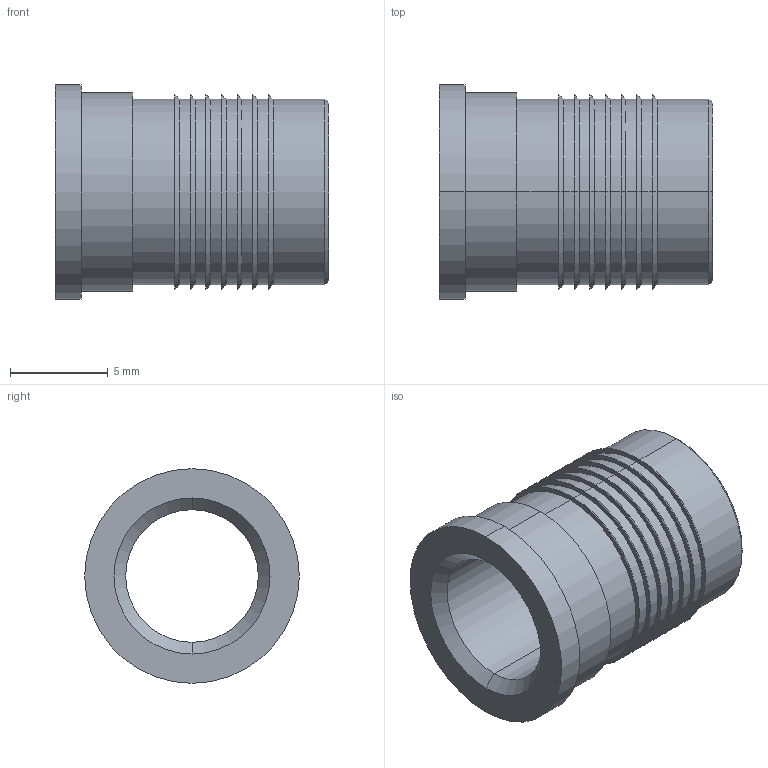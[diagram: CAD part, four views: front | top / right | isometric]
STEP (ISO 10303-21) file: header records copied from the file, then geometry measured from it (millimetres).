
FILE_DESCRIPTION (( 'STEP AP203' ), '1' );
FILE_NAME ('FSUK-PUH-M08-S.STEP', '2021-04-15T12:39:44', ( '' ), ( '' ), 'SwSTEP 2.0', 'SolidWorks 2021', '' );
FILE_SCHEMA (( 'CONFIG_CONTROL_DESIGN' ));
Length unit declared in the file: millimetre
Products named in the file (1): FSUK-PUH-M08-S
Bounding box: 14.02 x 11 x 11 mm (x, y, z)
Volume: 543.1 mm3; surface area: 907 mm2
Topology: 1 solids, 1 shells, 53 faces, 106 edges, 64 vertices
Faces by surface type: cylinder 22, cone 20, plane 11
Entity records: 1465 total; most frequent: DIRECTION 278, CARTESIAN_POINT 224, ORIENTED_EDGE 212, AXIS2_PLACEMENT_3D 118, EDGE_CURVE 106, CIRCLE 64, VERTEX_POINT 64, EDGE_LOOP 64
